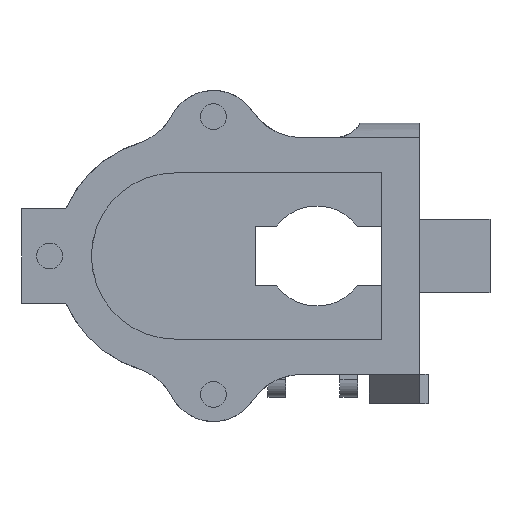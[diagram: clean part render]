
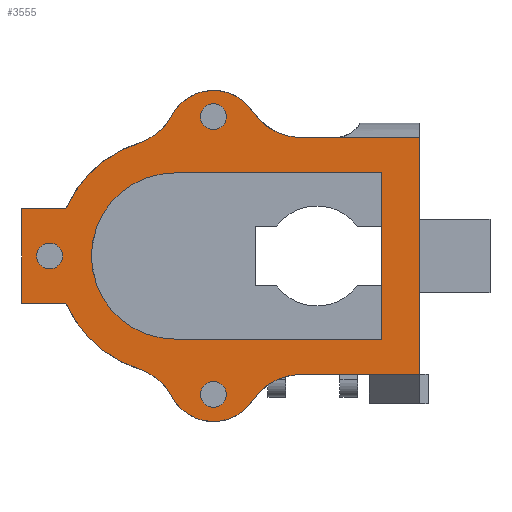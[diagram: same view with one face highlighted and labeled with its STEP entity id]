
A CAD part, left-side view. The second image highlights one B-rep face of the part: STEP entity #3555.
In plain terms, the highlighted planar face has unit normal (-1, 0, 0).
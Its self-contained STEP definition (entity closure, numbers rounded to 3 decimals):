
#38=FACE_BOUND('',#1353,.T.);
#39=FACE_BOUND('',#1354,.T.);
#40=FACE_BOUND('',#1355,.T.);
#41=FACE_BOUND('',#1356,.T.);
#225=LINE('',#5296,#546);
#278=LINE('',#6219,#599);
#349=LINE('',#6405,#670);
#367=LINE('',#6477,#688);
#504=LINE('',#6896,#825);
#516=LINE('',#6968,#837);
#522=LINE('',#7017,#843);
#523=LINE('',#7020,#844);
#524=LINE('',#7021,#845);
#546=VECTOR('',#3952,1000.);
#599=VECTOR('',#4139,1000.);
#670=VECTOR('',#4292,1000.);
#688=VECTOR('',#4326,1000.);
#825=VECTOR('',#4683,1000.);
#837=VECTOR('',#4729,1000.);
#843=VECTOR('',#4743,1000.);
#844=VECTOR('',#4746,1000.);
#845=VECTOR('',#4747,1000.);
#946=PLANE('',#3855);
#1137=FACE_OUTER_BOUND('',#1352,.T.);
#1352=EDGE_LOOP('',(#3322,#3323,#3324,#3325,#3326,#3327,#3328,#3329,#3330,
#3331,#3332,#3333,#3334,#3335));
#1353=EDGE_LOOP('',(#3336));
#1354=EDGE_LOOP('',(#3337));
#1355=EDGE_LOOP('',(#3338));
#1356=EDGE_LOOP('',(#3339,#3340,#3341,#3342));
#1375=CIRCLE('',#3589,20.1);
#1376=CIRCLE('',#3591,20.1);
#1397=CIRCLE('',#3619,8.);
#1406=CIRCLE('',#3631,10.);
#1407=CIRCLE('',#3633,8.);
#1408=CIRCLE('',#3636,10.);
#1476=CIRCLE('',#3835,10.);
#1477=CIRCLE('',#3837,10.);
#1478=CIRCLE('',#3839,2.2);
#1479=CIRCLE('',#3841,2.2);
#1480=CIRCLE('',#3843,2.2);
#1484=CIRCLE('',#3856,14.1);
#1508=VERTEX_POINT('',#4953);
#1509=VERTEX_POINT('',#4955);
#1512=VERTEX_POINT('',#4961);
#1513=VERTEX_POINT('',#4963);
#1543=VERTEX_POINT('',#5293);
#1544=VERTEX_POINT('',#5295);
#1568=VERTEX_POINT('',#5541);
#1569=VERTEX_POINT('',#5543);
#1585=VERTEX_POINT('',#5903);
#1586=VERTEX_POINT('',#5907);
#1587=VERTEX_POINT('',#5912);
#1630=VERTEX_POINT('',#6218);
#1703=VERTEX_POINT('',#6402);
#1704=VERTEX_POINT('',#6404);
#1803=VERTEX_POINT('',#6894);
#1804=VERTEX_POINT('',#6902);
#1805=VERTEX_POINT('',#6906);
#1806=VERTEX_POINT('',#6910);
#1812=VERTEX_POINT('',#6966);
#1817=VERTEX_POINT('',#7015);
#1818=VERTEX_POINT('',#7019);
#1847=EDGE_CURVE('',#1508,#1509,#1375,.T.);
#1851=EDGE_CURVE('',#1513,#1512,#1376,.T.);
#1891=EDGE_CURVE('',#1544,#1543,#225,.T.);
#1922=EDGE_CURVE('',#1568,#1569,#1397,.T.);
#1954=EDGE_CURVE('',#1508,#1585,#1406,.T.);
#1956=EDGE_CURVE('',#1586,#1585,#1407,.T.);
#1959=EDGE_CURVE('',#1586,#1587,#1408,.T.);
#2021=EDGE_CURVE('',#1630,#1544,#278,.T.);
#2113=EDGE_CURVE('',#1704,#1703,#349,.T.);
#2135=EDGE_CURVE('',#1587,#1630,#367,.T.);
#2301=EDGE_CURVE('',#1703,#1803,#504,.T.);
#2302=EDGE_CURVE('',#1543,#1569,#1476,.T.);
#2303=EDGE_CURVE('',#1568,#1513,#1477,.T.);
#2304=EDGE_CURVE('',#1804,#1804,#1478,.T.);
#2306=EDGE_CURVE('',#1805,#1805,#1479,.T.);
#2308=EDGE_CURVE('',#1806,#1806,#1480,.T.);
#2321=EDGE_CURVE('',#1803,#1812,#516,.T.);
#2329=EDGE_CURVE('',#1512,#1817,#522,.T.);
#2330=EDGE_CURVE('',#1817,#1818,#523,.T.);
#2331=EDGE_CURVE('',#1818,#1509,#524,.T.);
#2332=EDGE_CURVE('',#1812,#1704,#1484,.T.);
#3322=ORIENTED_EDGE('',*,*,#1922,.F.);
#3323=ORIENTED_EDGE('',*,*,#2303,.T.);
#3324=ORIENTED_EDGE('',*,*,#1851,.T.);
#3325=ORIENTED_EDGE('',*,*,#2329,.T.);
#3326=ORIENTED_EDGE('',*,*,#2330,.T.);
#3327=ORIENTED_EDGE('',*,*,#2331,.T.);
#3328=ORIENTED_EDGE('',*,*,#1847,.F.);
#3329=ORIENTED_EDGE('',*,*,#1954,.T.);
#3330=ORIENTED_EDGE('',*,*,#1956,.F.);
#3331=ORIENTED_EDGE('',*,*,#1959,.T.);
#3332=ORIENTED_EDGE('',*,*,#2135,.T.);
#3333=ORIENTED_EDGE('',*,*,#2021,.T.);
#3334=ORIENTED_EDGE('',*,*,#1891,.T.);
#3335=ORIENTED_EDGE('',*,*,#2302,.T.);
#3336=ORIENTED_EDGE('',*,*,#2308,.T.);
#3337=ORIENTED_EDGE('',*,*,#2306,.T.);
#3338=ORIENTED_EDGE('',*,*,#2304,.T.);
#3339=ORIENTED_EDGE('',*,*,#2321,.T.);
#3340=ORIENTED_EDGE('',*,*,#2332,.T.);
#3341=ORIENTED_EDGE('',*,*,#2113,.T.);
#3342=ORIENTED_EDGE('',*,*,#2301,.T.);
#3555=ADVANCED_FACE('',(#1137,#38,#39,#40,#41),#946,.T.);
#3589=AXIS2_PLACEMENT_3D('',#4956,#3901,#3902);
#3591=AXIS2_PLACEMENT_3D('',#4964,#3907,#3908);
#3619=AXIS2_PLACEMENT_3D('',#5544,#3985,#3986);
#3631=AXIS2_PLACEMENT_3D('',#5905,#4014,#4015);
#3633=AXIS2_PLACEMENT_3D('',#5909,#4019,#4020);
#3636=AXIS2_PLACEMENT_3D('',#5914,#4026,#4027);
#3835=AXIS2_PLACEMENT_3D('',#6898,#4686,#4687);
#3837=AXIS2_PLACEMENT_3D('',#6900,#4690,#4691);
#3839=AXIS2_PLACEMENT_3D('',#6903,#4694,#4695);
#3841=AXIS2_PLACEMENT_3D('',#6907,#4699,#4700);
#3843=AXIS2_PLACEMENT_3D('',#6911,#4704,#4705);
#3855=AXIS2_PLACEMENT_3D('',#7018,#4744,#4745);
#3856=AXIS2_PLACEMENT_3D('',#7022,#4748,#4749);
#3901=DIRECTION('center_axis',(1.,0.,0.));
#3902=DIRECTION('ref_axis',(0.,0.,1.));
#3907=DIRECTION('center_axis',(-1.,0.,0.));
#3908=DIRECTION('ref_axis',(0.,0.,1.));
#3952=DIRECTION('',(0.,1.,0.));
#3985=DIRECTION('center_axis',(1.,0.,0.));
#3986=DIRECTION('ref_axis',(0.,0.,1.));
#4014=DIRECTION('center_axis',(1.,0.,0.));
#4015=DIRECTION('ref_axis',(0.,0.,1.));
#4019=DIRECTION('center_axis',(1.,0.,0.));
#4020=DIRECTION('ref_axis',(0.,0.,1.));
#4026=DIRECTION('center_axis',(1.,0.,0.));
#4027=DIRECTION('ref_axis',(0.,0.,1.));
#4139=DIRECTION('',(0.,0.,1.));
#4292=DIRECTION('',(0.,-1.,0.));
#4326=DIRECTION('',(0.,-1.,0.));
#4683=DIRECTION('',(0.,0.,-1.));
#4686=DIRECTION('center_axis',(1.,0.,0.));
#4687=DIRECTION('ref_axis',(0.,0.,1.));
#4690=DIRECTION('center_axis',(1.,0.,0.));
#4691=DIRECTION('ref_axis',(0.,0.,1.));
#4694=DIRECTION('center_axis',(1.,0.,0.));
#4695=DIRECTION('ref_axis',(0.,0.,-1.));
#4699=DIRECTION('center_axis',(1.,0.,0.));
#4700=DIRECTION('ref_axis',(0.,0.,-1.));
#4704=DIRECTION('center_axis',(1.,0.,0.));
#4705=DIRECTION('ref_axis',(0.,0.,-1.));
#4729=DIRECTION('',(0.,1.,0.));
#4743=DIRECTION('',(0.,1.,0.));
#4744=DIRECTION('center_axis',(-1.,0.,0.));
#4745=DIRECTION('ref_axis',(0.,0.,1.));
#4746=DIRECTION('',(0.,0.,-1.));
#4747=DIRECTION('',(0.,-1.,0.));
#4748=DIRECTION('center_axis',(1.,0.,0.));
#4749=DIRECTION('ref_axis',(0.,0.,-1.));
#4953=CARTESIAN_POINT('',(-177.682,54.074,-19.132));
#4955=CARTESIAN_POINT('',(-177.682,66.352,-8.));
#4956=CARTESIAN_POINT('Origin',(-177.682,47.913,0.));
#4961=CARTESIAN_POINT('',(-177.682,66.352,8.));
#4963=CARTESIAN_POINT('',(-177.682,54.074,19.132));
#4964=CARTESIAN_POINT('Origin',(-177.682,47.913,0.));
#5293=CARTESIAN_POINT('',(-177.682,26.333,20.1));
#5295=CARTESIAN_POINT('',(-177.682,6.363,20.1));
#5296=CARTESIAN_POINT('',(-177.682,75.798,20.1));
#5541=CARTESIAN_POINT('',(-177.682,48.34,23.9));
#5543=CARTESIAN_POINT('',(-177.682,34.648,24.544));
#5544=CARTESIAN_POINT('Origin',(-177.682,41.3,20.1));
#5903=CARTESIAN_POINT('',(-177.682,48.34,-23.9));
#5905=CARTESIAN_POINT('Origin',(-177.682,57.139,-28.651));
#5907=CARTESIAN_POINT('',(-177.682,34.648,-24.544));
#5909=CARTESIAN_POINT('Origin',(-177.682,41.3,-20.1));
#5912=CARTESIAN_POINT('',(-177.682,26.333,-20.1));
#5914=CARTESIAN_POINT('Origin',(-177.682,26.333,-30.1));
#6218=CARTESIAN_POINT('',(-177.682,6.363,-20.1));
#6219=CARTESIAN_POINT('',(-177.682,6.363,20.1));
#6402=CARTESIAN_POINT('',(-177.682,12.713,14.1));
#6404=CARTESIAN_POINT('',(-177.682,47.913,14.1));
#6405=CARTESIAN_POINT('',(-177.682,75.798,14.1));
#6477=CARTESIAN_POINT('',(-177.682,75.798,-20.1));
#6894=CARTESIAN_POINT('',(-177.682,12.713,-14.1));
#6896=CARTESIAN_POINT('',(-177.682,12.713,20.1));
#6898=CARTESIAN_POINT('Origin',(-177.682,26.333,30.1));
#6900=CARTESIAN_POINT('Origin',(-177.682,57.139,28.651));
#6902=CARTESIAN_POINT('',(-177.682,69.107,2.2));
#6903=CARTESIAN_POINT('Origin',(-177.682,69.107,0.));
#6906=CARTESIAN_POINT('',(-177.682,41.3,-21.3));
#6907=CARTESIAN_POINT('Origin',(-177.682,41.3,-23.5));
#6910=CARTESIAN_POINT('',(-177.682,41.3,25.849));
#6911=CARTESIAN_POINT('Origin',(-177.682,41.3,23.649));
#6966=CARTESIAN_POINT('',(-177.682,47.913,-14.1));
#6968=CARTESIAN_POINT('',(-177.682,75.798,-14.1));
#7015=CARTESIAN_POINT('',(-177.682,73.8,8.));
#7017=CARTESIAN_POINT('',(-177.682,73.8,8.));
#7018=CARTESIAN_POINT('Origin',(-177.682,75.798,20.1));
#7019=CARTESIAN_POINT('',(-177.682,73.8,-8.));
#7020=CARTESIAN_POINT('',(-177.682,73.8,-8.));
#7021=CARTESIAN_POINT('',(-177.682,64.106,-8.));
#7022=CARTESIAN_POINT('Origin',(-177.682,47.913,0.));
